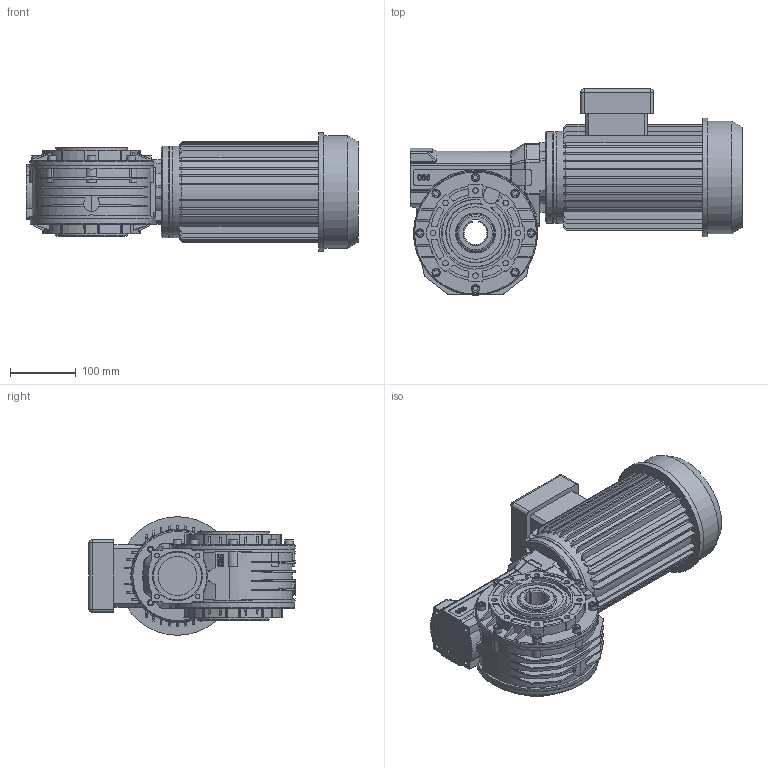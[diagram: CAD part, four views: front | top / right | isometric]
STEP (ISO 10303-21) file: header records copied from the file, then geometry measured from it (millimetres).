
FILE_DESCRIPTION( ( 'Unknown' ), '1' );
FILE_NAME( 'E:/services/configuratordownloads/customers/HYDROMEC/VSF/download/71B085FE37F5CEED3DD6F2BD70DD134/STEP/71B085FE37F5CEED3DD6F2BD70DD134.3d.stp', 'Unknown', ( 'Unknown' ), ( 'Unknown' ), 'PSStep 10.1', 'Unknown', ' ' );
FILE_SCHEMA( ( 'AUTOMOTIVE_DESIGN { 1 0 10303 214 1 1 1 1 }' ) );
Length unit declared in the file: millimetre
Products named in the file (1): 0858800
Bounding box: 506.5 x 314.5 x 181 mm (x, y, z)
Volume: 9874840.3 mm3; surface area: 590229.9 mm2
Topology: 1 solids, 10 shells, 1316 faces, 3437 edges, 2253 vertices
Faces by surface type: plane 765, cylinder 315, bspline 102, cone 75, extrusion 35, torus 18, sphere 6
Full cylindrical faces by diameter (mm): 4.917 x12, 6.647 x8, 6.8 x8, 8.376 x24, 10 x4, 12.8 x8, 45 x1, 55 x2, 59 x1, 62 x1, 80 x2, 93.5 x1, 110 x1, 140 x2, 172 x1, 181 x1, 189 x1
Entity records: 62025 total; most frequent: CARTESIAN_POINT 20311, ORIENTED_EDGE 6564, DIRECTION 6117, EDGE_CURVE 3282, VERTEX_POINT 2225, AXIS2_PLACEMENT_3D 2128, VECTOR 1861, LINE 1826
